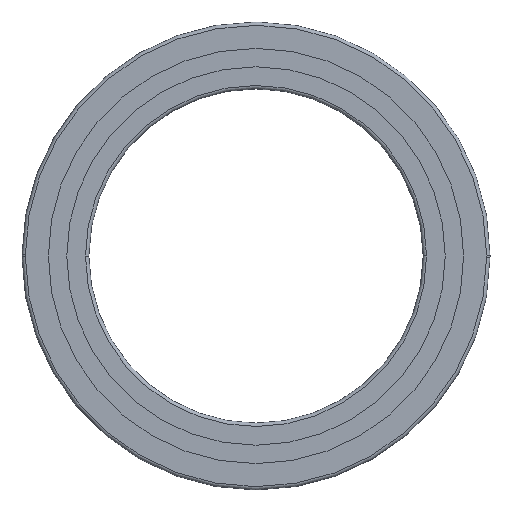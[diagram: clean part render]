
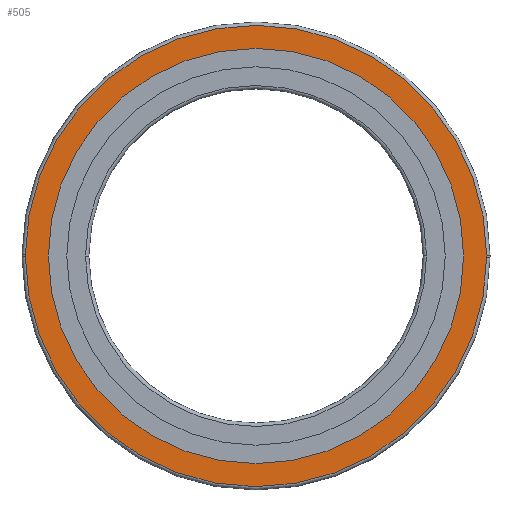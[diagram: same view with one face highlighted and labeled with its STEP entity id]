
A CAD part, front view. The second image highlights one B-rep face of the part: STEP entity #505.
In plain terms, the highlighted planar face has unit normal (0, -1, 0).
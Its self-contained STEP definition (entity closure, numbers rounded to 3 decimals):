
#257=VERTEX_POINT('',#661);
#273=EDGE_CURVE('',#461,#411,#677,.T.);
#285=EDGE_CURVE('',#411,#457,#690,.T.);
#331=VERTEX_POINT('',#742);
#351=EDGE_CURVE('',#431,#257,#764,.T.);
#411=VERTEX_POINT('',#835);
#431=VERTEX_POINT('',#857);
#457=VERTEX_POINT('',#887);
#461=VERTEX_POINT('',#891);
#505=ADVANCED_FACE('',(#941,#942),#943,.F.);
#519=EDGE_CURVE('',#331,#461,#958,.T.);
#523=EDGE_CURVE('',#457,#331,#962,.T.);
#607=EDGE_CURVE('',#257,#431,#1056,.T.);
#661=CARTESIAN_POINT('',(62.1,0.0,0.0));
#677=CIRCLE('',#1133,69.0);
#690=CIRCLE('',#1150,69.0);
#742=CARTESIAN_POINT('',(-69.0,0.0,0.0));
#764=CIRCLE('',#1246,62.1);
#835=CARTESIAN_POINT('',(69.0,0.0,0.0));
#857=CARTESIAN_POINT('',(-62.1,0.0,0.0));
#887=CARTESIAN_POINT('',(-68.999,0.0,0.428));
#891=CARTESIAN_POINT('',(68.999,0.0,-0.428));
#941=FACE_OUTER_BOUND('',#1452,.T.);
#942=FACE_BOUND('',#1453,.T.);
#943=PLANE('',#1454);
#958=CIRCLE('',#1477,69.0);
#962=CIRCLE('',#1483,69.0);
#1056=CIRCLE('',#1599,62.1);
#1133=AXIS2_PLACEMENT_3D('',#1659,#1660,#1661);
#1150=AXIS2_PLACEMENT_3D('',#1679,#1680,#1681);
#1246=AXIS2_PLACEMENT_3D('',#1767,#1768,#1769);
#1452=EDGE_LOOP('',(#1995,#1996,#1997,#1998));
#1453=EDGE_LOOP('',(#1999,#2000));
#1454=AXIS2_PLACEMENT_3D('',#2001,#2002,#2003);
#1477=AXIS2_PLACEMENT_3D('',#2023,#2024,#2025);
#1483=AXIS2_PLACEMENT_3D('',#2029,#2030,#2031);
#1599=AXIS2_PLACEMENT_3D('',#2172,#2173,#2174);
#1659=CARTESIAN_POINT('',(0.0,0.0,0.0));
#1660=DIRECTION('',(0.0,-1.0,0.0));
#1661=DIRECTION('',(-1.0,0.0,0.0));
#1679=CARTESIAN_POINT('',(0.0,0.0,0.0));
#1680=DIRECTION('',(0.0,-1.0,0.0));
#1681=DIRECTION('',(1.0,0.0,0.0));
#1767=CARTESIAN_POINT('',(0.0,0.0,0.0));
#1768=DIRECTION('',(0.0,-1.0,0.0));
#1769=DIRECTION('',(-1.0,0.0,0.0));
#1995=ORIENTED_EDGE('',*,*,#519,.T.);
#1996=ORIENTED_EDGE('',*,*,#273,.T.);
#1997=ORIENTED_EDGE('',*,*,#285,.T.);
#1998=ORIENTED_EDGE('',*,*,#523,.T.);
#1999=ORIENTED_EDGE('',*,*,#351,.F.);
#2000=ORIENTED_EDGE('',*,*,#607,.F.);
#2001=CARTESIAN_POINT('',(0.0,0.0,0.0));
#2002=DIRECTION('',(0.0,1.0,0.0));
#2003=DIRECTION('',(1.0,0.0,-0.0));
#2023=CARTESIAN_POINT('',(0.0,0.0,0.0));
#2024=DIRECTION('',(0.0,-1.0,0.0));
#2025=DIRECTION('',(-1.0,0.0,0.0));
#2029=CARTESIAN_POINT('',(0.0,0.0,0.0));
#2030=DIRECTION('',(0.0,-1.0,0.0));
#2031=DIRECTION('',(1.0,0.0,0.0));
#2172=CARTESIAN_POINT('',(0.0,0.0,0.0));
#2173=DIRECTION('',(0.0,-1.0,0.0));
#2174=DIRECTION('',(1.0,0.0,0.0));
